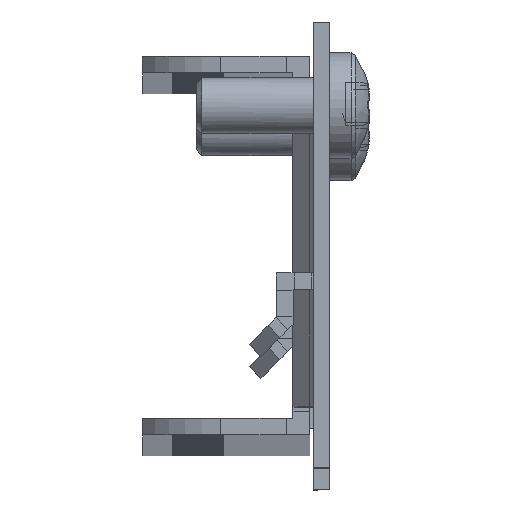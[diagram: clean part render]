
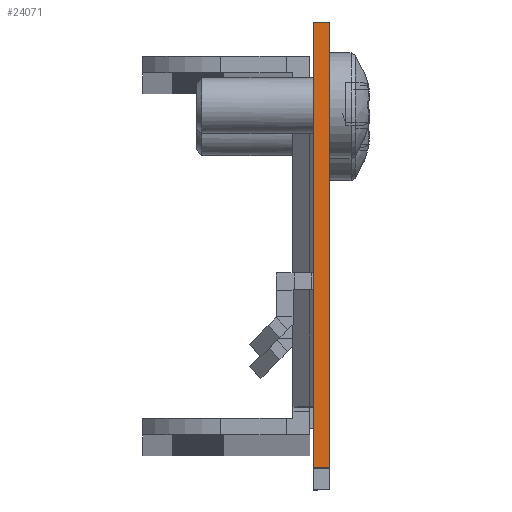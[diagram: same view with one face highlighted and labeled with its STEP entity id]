
A CAD part, top view. The second image highlights one B-rep face of the part: STEP entity #24071.
In plain terms, the highlighted planar face has unit normal (0, 0, 1) as drawn and (-1, 0, 0) by its records, which use the part's own axes.
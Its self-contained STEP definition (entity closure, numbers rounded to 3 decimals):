
#22286 = VERTEX_POINT('',#22287);
#22287 = CARTESIAN_POINT('',(-575.022,20.,1.802));
#22293 = EDGE_CURVE('',#22294,#22286,#22296,.T.);
#22294 = VERTEX_POINT('',#22295);
#22295 = CARTESIAN_POINT('',(-575.022,-20.,1.802));
#22296 = LINE('',#22297,#22298);
#22297 = CARTESIAN_POINT('',(-575.022,14.5,1.802));
#22298 = VECTOR('',#22299,1.);
#22299 = DIRECTION('',(0.,1.,0.));
#22395 = EDGE_CURVE('',#22396,#22398,#22400,.T.);
#22396 = VERTEX_POINT('',#22397);
#22397 = CARTESIAN_POINT('',(-575.022,-20.,0.302));
#22398 = VERTEX_POINT('',#22399);
#22399 = CARTESIAN_POINT('',(-575.022,20.,0.302));
#22400 = LINE('',#22401,#22402);
#22401 = CARTESIAN_POINT('',(-575.022,0.,
    0.302));
#22402 = VECTOR('',#22403,1.);
#22403 = DIRECTION('',(0.,1.,0.));
#24071 = ADVANCED_FACE('',(#24072),#24088,.T.);
#24072 = FACE_BOUND('',#24073,.T.);
#24073 = EDGE_LOOP('',(#24074,#24075,#24081,#24082));
#24074 = ORIENTED_EDGE('',*,*,#22395,.F.);
#24075 = ORIENTED_EDGE('',*,*,#24076,.T.);
#24076 = EDGE_CURVE('',#22396,#22294,#24077,.T.);
#24077 = LINE('',#24078,#24079);
#24078 = CARTESIAN_POINT('',(-575.022,-20.,0.302));
#24079 = VECTOR('',#24080,1.);
#24080 = DIRECTION('',(0.,0.,1.));
#24081 = ORIENTED_EDGE('',*,*,#22293,.T.);
#24082 = ORIENTED_EDGE('',*,*,#24083,.F.);
#24083 = EDGE_CURVE('',#22398,#22286,#24084,.T.);
#24084 = LINE('',#24085,#24086);
#24085 = CARTESIAN_POINT('',(-575.022,20.,0.302));
#24086 = VECTOR('',#24087,1.);
#24087 = DIRECTION('',(0.,0.,1.));
#24088 = PLANE('',#24089);
#24089 = AXIS2_PLACEMENT_3D('',#24090,#24091,#24092);
#24090 = CARTESIAN_POINT('',(-575.022,14.5,1.802));
#24091 = DIRECTION('',(-1.,0.,0.));
#24092 = DIRECTION('',(0.,0.,1.));
